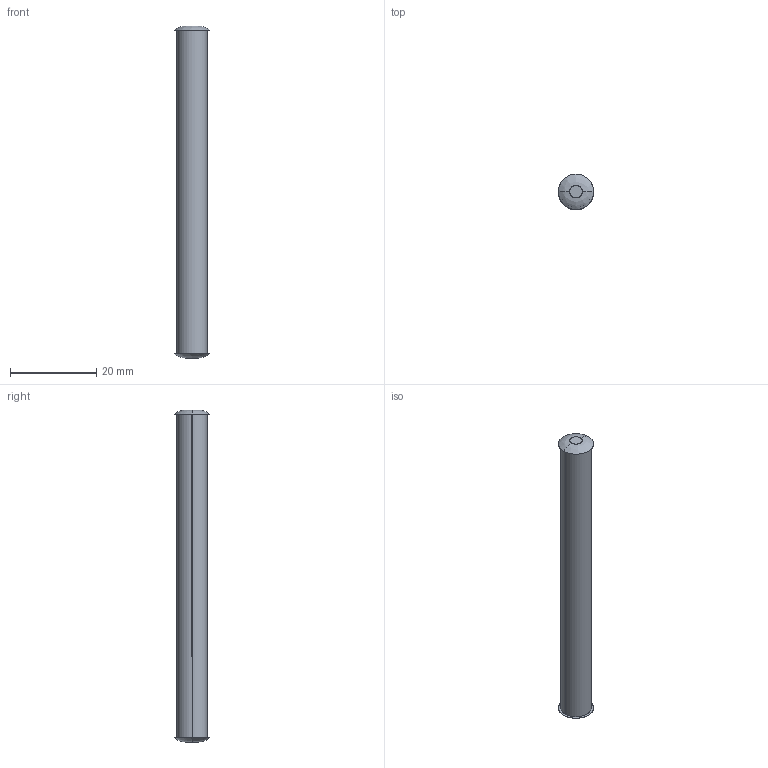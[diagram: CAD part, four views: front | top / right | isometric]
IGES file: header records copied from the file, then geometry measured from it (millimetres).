
Start section: SolidWorks IGES file using analytic representation for surfaces
Global section: file name: Z:\Mes documents\ATAO iges\Gamme CC\CC 409\409.030.00.IGS; native system: SolidWorks 2008; preprocessor: SolidWorks 2008; author: cbrechard; date: 110628.162308; units: millimetre
Bounding box: 8.2 x 8.2 x 77 mm (x, y, z)
Surface area: 1794.4 mm2 (no closed solid volume)
Topology: 0 solids, 0 shells, 10 faces, 216 edges, 216 vertices
Faces by surface type: bspline 8, revolution 2
